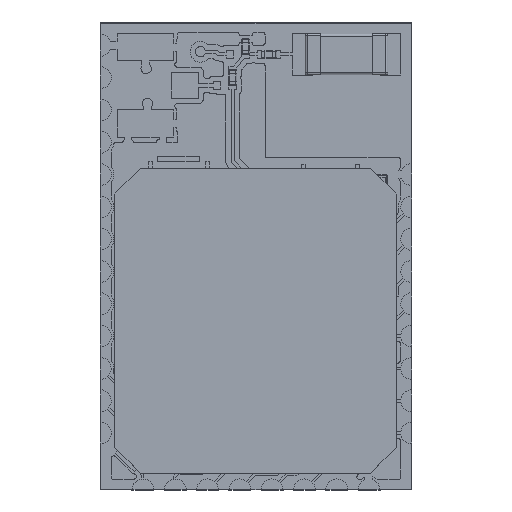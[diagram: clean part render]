
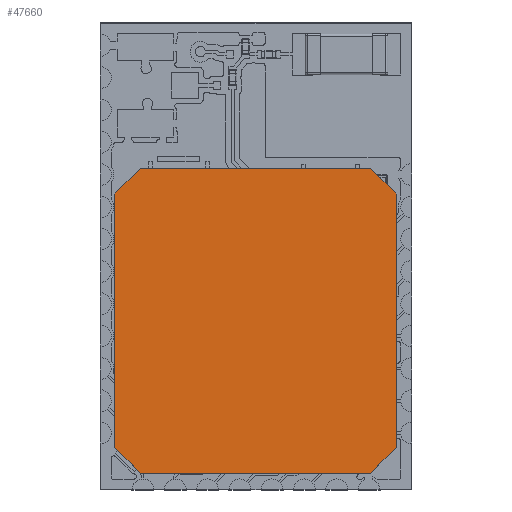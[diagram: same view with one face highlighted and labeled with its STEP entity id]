
A CAD part, top view. The second image highlights one B-rep face of the part: STEP entity #47660.
In plain terms, the highlighted planar face has unit normal (0, 0, 1).
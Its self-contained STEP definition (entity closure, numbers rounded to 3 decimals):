
#6473=FACE_OUTER_BOUND('',#9061,.T.);
#9061=EDGE_LOOP('',(#43078,#43079,#43080,#43081,#43082,#43083,#43084,#43085));
#13809=LINE('',#81636,#18649);
#13810=LINE('',#81638,#18650);
#13811=LINE('',#81640,#18651);
#13812=LINE('',#81642,#18652);
#13813=LINE('',#81644,#18653);
#13814=LINE('',#81646,#18654);
#13815=LINE('',#81648,#18655);
#13816=LINE('',#81649,#18656);
#18649=VECTOR('',#67287,1.);
#18650=VECTOR('',#67288,1.);
#18651=VECTOR('',#67289,1.);
#18652=VECTOR('',#67290,1.);
#18653=VECTOR('',#67291,1.);
#18654=VECTOR('',#67292,1.);
#18655=VECTOR('',#67293,1.);
#18656=VECTOR('',#67294,1.);
#23208=VERTEX_POINT('',#81634);
#23209=VERTEX_POINT('',#81635);
#23210=VERTEX_POINT('',#81637);
#23211=VERTEX_POINT('',#81639);
#23212=VERTEX_POINT('',#81641);
#23213=VERTEX_POINT('',#81643);
#23214=VERTEX_POINT('',#81645);
#23215=VERTEX_POINT('',#81647);
#29859=EDGE_CURVE('',#23208,#23209,#13809,.T.);
#29860=EDGE_CURVE('',#23209,#23210,#13810,.T.);
#29861=EDGE_CURVE('',#23210,#23211,#13811,.T.);
#29862=EDGE_CURVE('',#23211,#23212,#13812,.T.);
#29863=EDGE_CURVE('',#23212,#23213,#13813,.T.);
#29864=EDGE_CURVE('',#23213,#23214,#13814,.T.);
#29865=EDGE_CURVE('',#23214,#23215,#13815,.T.);
#29866=EDGE_CURVE('',#23215,#23208,#13816,.T.);
#43078=ORIENTED_EDGE('',*,*,#29859,.T.);
#43079=ORIENTED_EDGE('',*,*,#29860,.T.);
#43080=ORIENTED_EDGE('',*,*,#29861,.T.);
#43081=ORIENTED_EDGE('',*,*,#29862,.T.);
#43082=ORIENTED_EDGE('',*,*,#29863,.T.);
#43083=ORIENTED_EDGE('',*,*,#29864,.T.);
#43084=ORIENTED_EDGE('',*,*,#29865,.T.);
#43085=ORIENTED_EDGE('',*,*,#29866,.T.);
#45199=PLANE('',#53616);
#47660=ADVANCED_FACE('',(#6473),#45199,.T.);
#53616=AXIS2_PLACEMENT_3D('',#81633,#67285,#67286);
#67285=DIRECTION('center_axis',(0.,0.,1.));
#67286=DIRECTION('ref_axis',(1.,0.,0.));
#67287=DIRECTION('',(-0.707,-0.707,0.));
#67288=DIRECTION('',(0.,-1.,0.));
#67289=DIRECTION('',(0.707,-0.707,0.));
#67290=DIRECTION('',(1.,0.,0.));
#67291=DIRECTION('',(0.707,0.707,0.));
#67292=DIRECTION('',(0.,1.,0.));
#67293=DIRECTION('',(-0.707,0.707,0.));
#67294=DIRECTION('',(-1.,0.,0.));
#81633=CARTESIAN_POINT('Origin',(1.43,-0.33,1.3));
#81634=CARTESIAN_POINT('',(-3.02,5.57,1.3));
#81635=CARTESIAN_POINT('',(-4.02,4.57,1.3));
#81636=CARTESIAN_POINT('',(-3.52,5.07,1.3));
#81637=CARTESIAN_POINT('',(-4.02,-5.23,1.3));
#81638=CARTESIAN_POINT('',(-4.02,-0.33,1.3));
#81639=CARTESIAN_POINT('',(-3.02,-6.23,1.3));
#81640=CARTESIAN_POINT('',(-3.52,-5.73,1.3));
#81641=CARTESIAN_POINT('',(5.88,-6.23,1.3));
#81642=CARTESIAN_POINT('',(1.43,-6.23,1.3));
#81643=CARTESIAN_POINT('',(6.88,-5.23,1.3));
#81644=CARTESIAN_POINT('',(6.38,-5.73,1.3));
#81645=CARTESIAN_POINT('',(6.88,4.57,1.3));
#81646=CARTESIAN_POINT('',(6.88,-0.33,1.3));
#81647=CARTESIAN_POINT('',(5.88,5.57,1.3));
#81648=CARTESIAN_POINT('',(6.38,5.07,1.3));
#81649=CARTESIAN_POINT('',(1.43,5.57,1.3));
